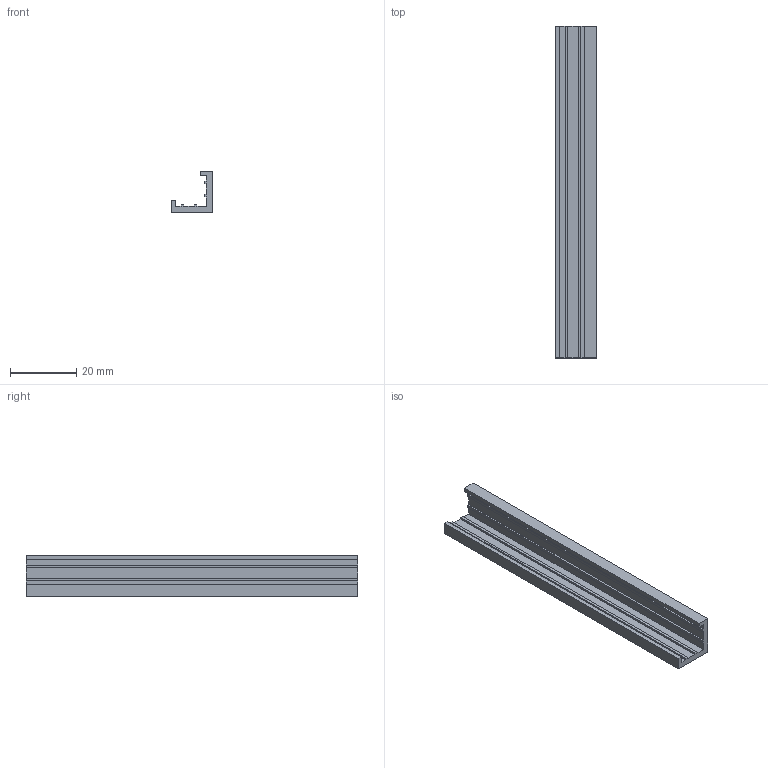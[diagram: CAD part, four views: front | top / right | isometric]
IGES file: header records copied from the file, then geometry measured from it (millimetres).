
Start section: Data from Parasolid IGES Translator 20.0.26, Copyright(c) 2006 Siemens P LM Software. All Rights Reserved.
Global section: file name: 9303918.igs; native system: By Siemens PLM Incorporated; preprocessor: XPlus GENERIC/IGES 20.0.26; author: Noname; organization: Noname; date: 20210826.154618; units: millimetre
Bounding box: 12.4 x 100 x 12.4 mm (x, y, z)
Surface area: 6280.1 mm2 (no closed solid volume)
Topology: 0 solids, 0 shells, 28 faces, 156 edges, 156 vertices
Faces by surface type: extrusion 28
